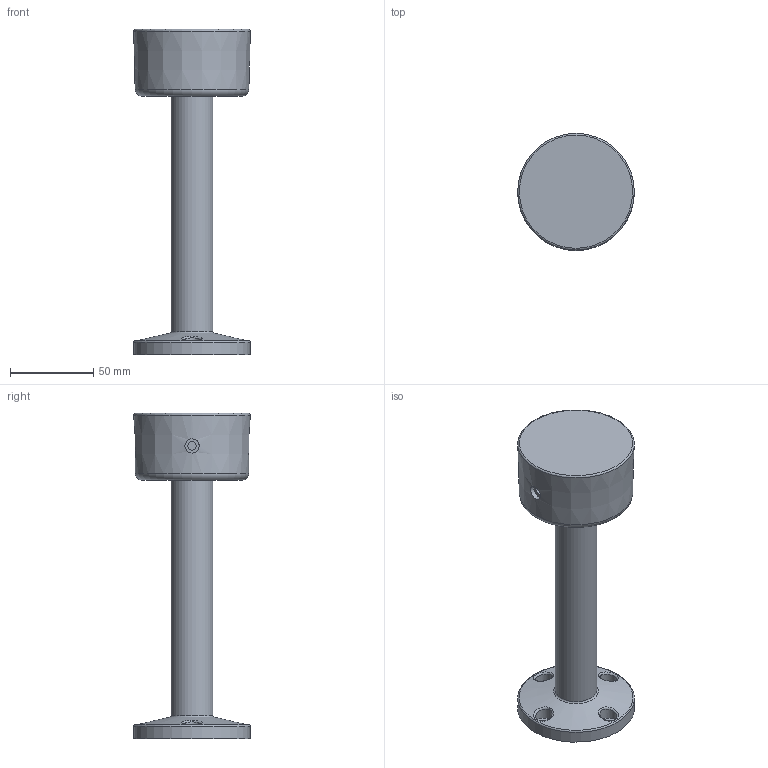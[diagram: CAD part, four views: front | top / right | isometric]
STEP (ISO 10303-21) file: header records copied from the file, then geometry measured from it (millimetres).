
FILE_DESCRIPTION(('STEP AP214'), '1');
FILE_NAME('扻豵鵨155', '', ('UNSPECIFIED'), ('UNSPECIFIED'), 'C3D Converter', 'C3D Toolkit', '');
FILE_SCHEMA(('AUTOMOTIVE_DESIGN { 1 0 10303 214 3 1 1}'));
Length unit declared in the file: millimetre
Bounding box: 70 x 70 x 195 mm (x, y, z)
Volume: 171836.8 mm3; surface area: 56466.1 mm2
Topology: 1 solids, 1 shells, 136 faces, 372 edges, 245 vertices
Faces by surface type: plane 79, cylinder 21, torus 16, cone 15, bspline 5
Full cylindrical faces by diameter (mm): 5 x1, 5.6 x4, 8.5 x1, 10 x4, 20 x1, 25 x1, 70 x1
Entity records: 8123 total; most frequent: CARTESIAN_POINT 3733, ORIENTED_EDGE 688, DIRECTION 622, EDGE_CURVE 344, VERTEX_POINT 242, AXIS2_PLACEMENT_3D 227, EDGE_LOOP 176, LINE 168
